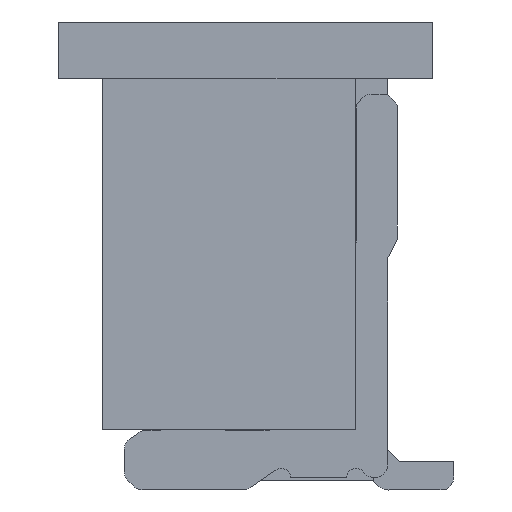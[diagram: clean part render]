
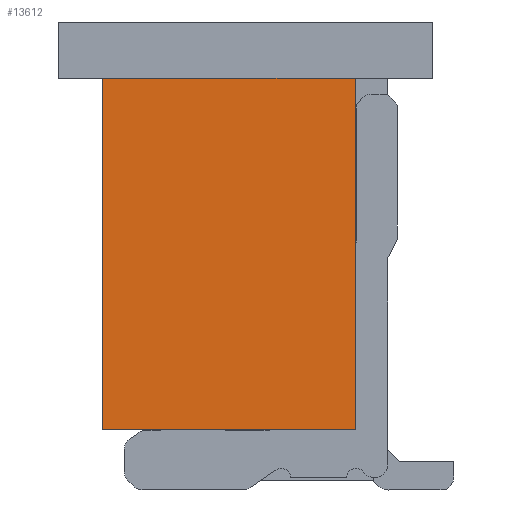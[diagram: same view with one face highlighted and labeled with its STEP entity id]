
A CAD part, left-side view. The second image highlights one B-rep face of the part: STEP entity #13612.
In plain terms, the highlighted planar face has unit normal (-1, 0, 0).
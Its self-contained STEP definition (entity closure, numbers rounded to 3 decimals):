
#307 = VERTEX_POINT ( 'NONE', #8240 ) ;
#752 = EDGE_CURVE ( 'NONE', #14275, #12192, #15192, .T. ) ;
#2091 = DIRECTION ( 'NONE',  ( 0., -1., 0. ) ) ;
#2210 = DIRECTION ( 'NONE',  ( 0., 0., 1. ) ) ;
#2413 = CARTESIAN_POINT ( 'NONE',  ( -5.175, -1.175, 2.15 ) ) ;
#2567 = CARTESIAN_POINT ( 'NONE',  ( -5.175, -1.175, -1.6 ) ) ;
#4545 = FACE_OUTER_BOUND ( 'NONE', #22276, .T. ) ;
#4749 = EDGE_CURVE ( 'NONE', #10410, #14275, #19917, .T. ) ;
#5700 = CARTESIAN_POINT ( 'NONE',  ( -5.175, 1.525, -1.6 ) ) ;
#6053 = DIRECTION ( 'NONE',  ( 0., -1., 0. ) ) ;
#6664 = ORIENTED_EDGE ( 'NONE', *, *, #9357, .F. ) ;
#7470 = LINE ( 'NONE', #22129, #19570 ) ;
#7813 = DIRECTION ( 'NONE',  ( 0., 0., 1. ) ) ;
#8240 = CARTESIAN_POINT ( 'NONE',  ( -5.175, 1.525, -1.6 ) ) ;
#9357 = EDGE_CURVE ( 'NONE', #307, #10410, #22127, .T. ) ;
#9546 = VECTOR ( 'NONE', #2091, 1000. ) ;
#10410 = VERTEX_POINT ( 'NONE', #15958 ) ;
#10883 = EDGE_CURVE ( 'NONE', #307, #12192, #7470, .T. ) ;
#11512 = ORIENTED_EDGE ( 'NONE', *, *, #752, .F. ) ;
#11957 = CARTESIAN_POINT ( 'NONE',  ( -5.175, -1.175, 2.15 ) ) ;
#12192 = VERTEX_POINT ( 'NONE', #2567 ) ;
#12496 = VECTOR ( 'NONE', #7813, 1000. ) ;
#13612 = ADVANCED_FACE ( 'NONE', ( #4545 ), #14984, .T. ) ;
#13698 = VECTOR ( 'NONE', #18487, 1000. ) ;
#13759 = ORIENTED_EDGE ( 'NONE', *, *, #4749, .F. ) ;
#14275 = VERTEX_POINT ( 'NONE', #11957 ) ;
#14984 = PLANE ( 'NONE',  #21614 ) ;
#15192 = LINE ( 'NONE', #2413, #13698 ) ;
#15958 = CARTESIAN_POINT ( 'NONE',  ( -5.175, 1.525, 2.15 ) ) ;
#18171 = CARTESIAN_POINT ( 'NONE',  ( -5.175, 1.525, 2.15 ) ) ;
#18284 = DIRECTION ( 'NONE',  ( -1., 0., 0. ) ) ;
#18487 = DIRECTION ( 'NONE',  ( 0., 0., -1. ) ) ;
#19570 = VECTOR ( 'NONE', #6053, 1000. ) ;
#19917 = LINE ( 'NONE', #18171, #9546 ) ;
#20390 = CARTESIAN_POINT ( 'NONE',  ( -5.175, 1.525, -2.15 ) ) ;
#21137 = ORIENTED_EDGE ( 'NONE', *, *, #10883, .T. ) ;
#21614 = AXIS2_PLACEMENT_3D ( 'NONE', #20390, #18284, #2210 ) ;
#22127 = LINE ( 'NONE', #5700, #12496 ) ;
#22129 = CARTESIAN_POINT ( 'NONE',  ( -5.175, 1.525, -1.6 ) ) ;
#22276 = EDGE_LOOP ( 'NONE', ( #13759, #6664, #21137, #11512 ) ) ;
